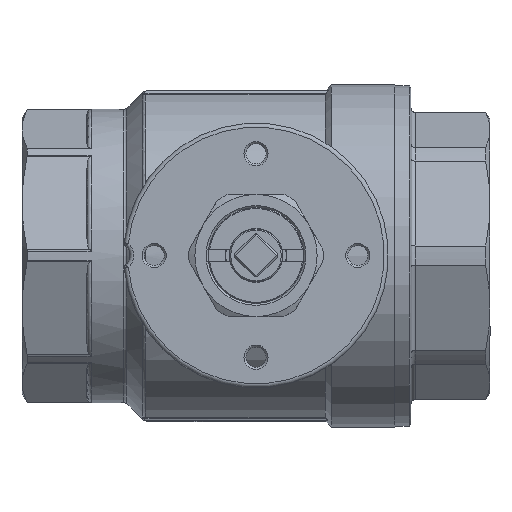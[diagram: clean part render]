
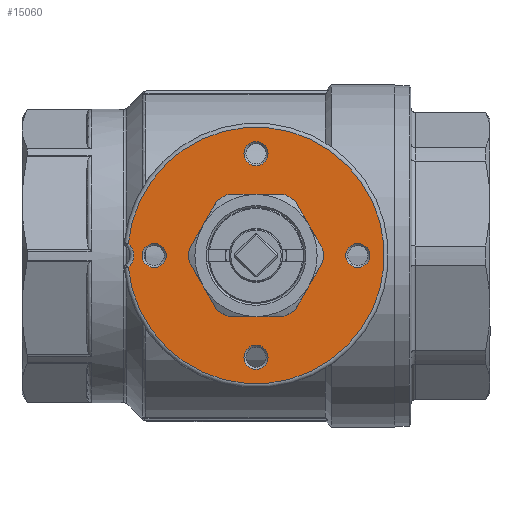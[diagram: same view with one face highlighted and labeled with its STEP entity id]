
A CAD part, top view. The second image highlights one B-rep face of the part: STEP entity #15060.
In plain terms, the highlighted planar face has unit normal (0, 0, 1) as drawn and (-1, 0, 0) by its records, which use the part's own axes.
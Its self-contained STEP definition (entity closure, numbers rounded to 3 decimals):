
#14976=CARTESIAN_POINT('',(-12.5,2.959,-25.0));
#14977=VERTEX_POINT('',#14976);
#14978=CARTESIAN_POINT('',(-12.5,0.,-25.0));
#14979=DIRECTION('',(-1.0,0.0,0.0));
#14980=DIRECTION('',(0.0,-1.0,0.0));
#14981=AXIS2_PLACEMENT_3D('',#14978,#14979,#14980);
#14982=CIRCLE('',#14981,2.959);
#14983=EDGE_CURVE('',#14977,#14977,#14982,.T.);
#14988=CARTESIAN_POINT('',(-12.5,16.25,0.0));
#14989=DIRECTION('',(-1.0,0.0,0.0));
#14990=DIRECTION('',(0.0,0.0,1.0));
#14991=AXIS2_PLACEMENT_3D('',#14988,#14989,#14990);
#14992=PLANE('',#14991);
#14993=CARTESIAN_POINT('',(-12.5,3.002,31.357));
#14994=VERTEX_POINT('',#14993);
#14995=CARTESIAN_POINT('',(-12.5,-3.002,31.357));
#14996=VERTEX_POINT('',#14995);
#14997=CARTESIAN_POINT('',(-12.5,0.,34.0));
#14998=DIRECTION('',(-1.0,0.0,0.0));
#14999=DIRECTION('',(0.0,0.0,-1.0));
#15000=AXIS2_PLACEMENT_3D('',#14997,#14998,#14999);
#15001=CIRCLE('',#15000,4.0);
#15002=EDGE_CURVE('',#14994,#14996,#15001,.T.);
#15003=ORIENTED_EDGE('',*,*,#15002,.F.);
#15004=CARTESIAN_POINT('',(-12.5,0.,0.0));
#15005=DIRECTION('',(1.0,0.0,0.0));
#15006=DIRECTION('',(0.0,-1.0,0.0));
#15007=AXIS2_PLACEMENT_3D('',#15004,#15005,#15006);
#15008=CIRCLE('',#15007,31.5);
#15009=EDGE_CURVE('',#14996,#14994,#15008,.T.);
#15010=ORIENTED_EDGE('',*,*,#15009,.F.);
#15011=EDGE_LOOP('',(#15003,#15010));
#15012=FACE_OUTER_BOUND('',#15011,.T.);
#15013=CARTESIAN_POINT('',(-12.5,27.958,0.));
#15014=VERTEX_POINT('',#15013);
#15015=CARTESIAN_POINT('',(-12.5,25.0,0.0));
#15016=DIRECTION('',(-1.0,0.0,0.0));
#15017=DIRECTION('',(0.0,-1.0,0.0));
#15018=AXIS2_PLACEMENT_3D('',#15015,#15016,#15017);
#15019=CIRCLE('',#15018,2.958);
#15020=EDGE_CURVE('',#15014,#15014,#15019,.T.);
#15021=ORIENTED_EDGE('',*,*,#15020,.F.);
#15022=EDGE_LOOP('',(#15021));
#15023=FACE_BOUND('',#15022,.T.);
#15024=CARTESIAN_POINT('',(-12.5,2.959,25.0));
#15025=VERTEX_POINT('',#15024);
#15026=CARTESIAN_POINT('',(-12.5,0.,25.0));
#15027=DIRECTION('',(-1.0,0.0,0.0));
#15028=DIRECTION('',(0.0,-1.0,0.0));
#15029=AXIS2_PLACEMENT_3D('',#15026,#15027,#15028);
#15030=CIRCLE('',#15029,2.959);
#15031=EDGE_CURVE('',#15025,#15025,#15030,.T.);
#15032=ORIENTED_EDGE('',*,*,#15031,.F.);
#15033=EDGE_LOOP('',(#15032));
#15034=FACE_BOUND('',#15033,.T.);
#15035=CARTESIAN_POINT('',(-12.5,-12.5,0.));
#15036=VERTEX_POINT('',#15035);
#15037=CARTESIAN_POINT('',(-12.5,0.,0.0));
#15038=DIRECTION('',(1.0,0.0,0.0));
#15039=DIRECTION('',(0.0,1.0,0.0));
#15040=AXIS2_PLACEMENT_3D('',#15037,#15038,#15039);
#15041=CIRCLE('',#15040,12.5);
#15042=EDGE_CURVE('',#15036,#15036,#15041,.T.);
#15043=ORIENTED_EDGE('',*,*,#15042,.T.);
#15044=EDGE_LOOP('',(#15043));
#15045=FACE_BOUND('',#15044,.T.);
#15046=CARTESIAN_POINT('',(-12.5,-22.042,0.));
#15047=VERTEX_POINT('',#15046);
#15048=CARTESIAN_POINT('',(-12.5,-25.0,0.0));
#15049=DIRECTION('',(-1.0,0.0,0.0));
#15050=DIRECTION('',(0.0,-1.0,0.0));
#15051=AXIS2_PLACEMENT_3D('',#15048,#15049,#15050);
#15052=CIRCLE('',#15051,2.958);
#15053=EDGE_CURVE('',#15047,#15047,#15052,.T.);
#15054=ORIENTED_EDGE('',*,*,#15053,.F.);
#15055=EDGE_LOOP('',(#15054));
#15056=FACE_BOUND('',#15055,.T.);
#15057=ORIENTED_EDGE('',*,*,#14983,.F.);
#15058=EDGE_LOOP('',(#15057));
#15059=FACE_BOUND('',#15058,.T.);
#15060=ADVANCED_FACE('',(#15012,#15023,#15034,#15045,#15056,#15059),#14992,.T.);
